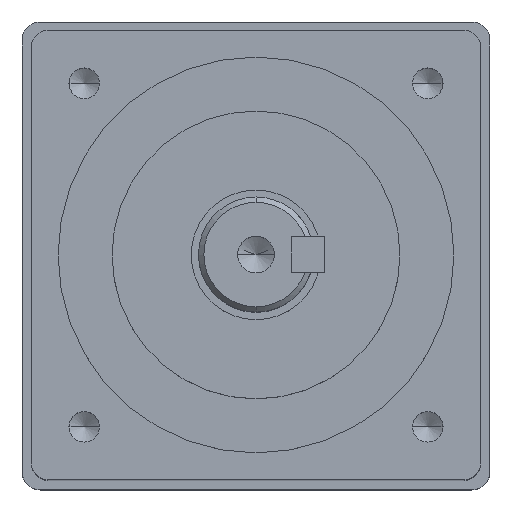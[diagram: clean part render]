
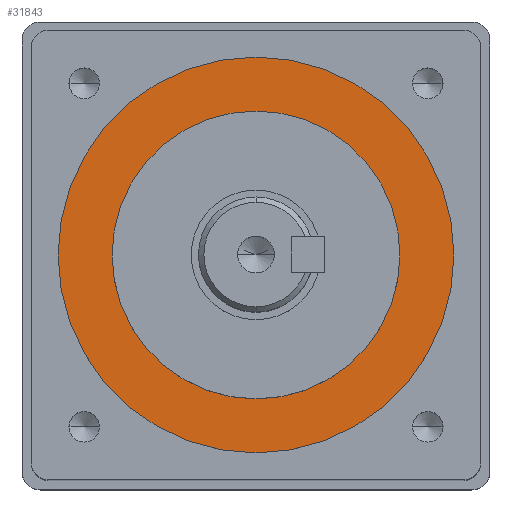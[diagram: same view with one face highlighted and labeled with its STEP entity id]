
A CAD part, top view. The second image highlights one B-rep face of the part: STEP entity #31843.
In plain terms, the highlighted planar face has unit normal (0, 0, 1).
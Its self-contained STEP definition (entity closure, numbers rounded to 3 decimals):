
#1376 = EDGE_CURVE ( 'NONE', #22476, #1460, #31026, .T. ) ;
#1460 = VERTEX_POINT ( 'NONE', #32520 ) ;
#1701 = CARTESIAN_POINT ( 'NONE',  ( 40., 0., 5. ) ) ;
#3507 = CARTESIAN_POINT ( 'NONE',  ( 0., 0., 5. ) ) ;
#4685 = VERTEX_POINT ( 'NONE', #11368 ) ;
#5006 = DIRECTION ( 'NONE',  ( -1., 0., 0. ) ) ;
#5077 = DIRECTION ( 'NONE',  ( 0., 0., -1. ) ) ;
#6755 = AXIS2_PLACEMENT_3D ( 'NONE', #6983, #24615, #9500 ) ;
#6983 = CARTESIAN_POINT ( 'NONE',  ( 0., 0., 5. ) ) ;
#8078 = CIRCLE ( 'NONE', #11906, 40. ) ;
#9406 = AXIS2_PLACEMENT_3D ( 'NONE', #29689, #14819, #32164 ) ;
#9500 = DIRECTION ( 'NONE',  ( -1., 0., 0. ) ) ;
#11368 = CARTESIAN_POINT ( 'NONE',  ( -40., 0., 5. ) ) ;
#11686 = PLANE ( 'NONE',  #14788 ) ;
#11861 = DIRECTION ( 'NONE',  ( 0., 0., -1. ) ) ;
#11906 = AXIS2_PLACEMENT_3D ( 'NONE', #26893, #11861, #29351 ) ;
#12707 = EDGE_CURVE ( 'NONE', #4685, #29924, #13374, .T. ) ;
#12982 = AXIS2_PLACEMENT_3D ( 'NONE', #3507, #5077, #5006 ) ;
#13130 = CIRCLE ( 'NONE', #9406, 55. ) ;
#13374 = CIRCLE ( 'NONE', #6755, 40. ) ;
#14295 = DIRECTION ( 'NONE',  ( 0., 0., 1. ) ) ;
#14788 = AXIS2_PLACEMENT_3D ( 'NONE', #31551, #14295, #31655 ) ;
#14819 = DIRECTION ( 'NONE',  ( 0., 0., -1. ) ) ;
#15503 = ORIENTED_EDGE ( 'NONE', *, *, #22045, .T. ) ;
#15877 = FACE_OUTER_BOUND ( 'NONE', #20837, .T. ) ;
#16058 = FACE_BOUND ( 'NONE', #26799, .T. ) ;
#17002 = ORIENTED_EDGE ( 'NONE', *, *, #28145, .F. ) ;
#18805 = ORIENTED_EDGE ( 'NONE', *, *, #12707, .T. ) ;
#20837 = EDGE_LOOP ( 'NONE', ( #29533, #17002 ) ) ;
#22045 = EDGE_CURVE ( 'NONE', #29924, #4685, #8078, .T. ) ;
#22476 = VERTEX_POINT ( 'NONE', #24247 ) ;
#24247 = CARTESIAN_POINT ( 'NONE',  ( -55., 0., 5. ) ) ;
#24615 = DIRECTION ( 'NONE',  ( 0., 0., -1. ) ) ;
#26799 = EDGE_LOOP ( 'NONE', ( #18805, #15503 ) ) ;
#26893 = CARTESIAN_POINT ( 'NONE',  ( 0., 0., 5. ) ) ;
#28145 = EDGE_CURVE ( 'NONE', #1460, #22476, #13130, .T. ) ;
#29351 = DIRECTION ( 'NONE',  ( -1., 0., 0. ) ) ;
#29533 = ORIENTED_EDGE ( 'NONE', *, *, #1376, .F. ) ;
#29689 = CARTESIAN_POINT ( 'NONE',  ( 0., 0., 5. ) ) ;
#29924 = VERTEX_POINT ( 'NONE', #1701 ) ;
#31026 = CIRCLE ( 'NONE', #12982, 55. ) ;
#31551 = CARTESIAN_POINT ( 'NONE',  ( 0., 0., 5. ) ) ;
#31655 = DIRECTION ( 'NONE',  ( 1., 0., 0. ) ) ;
#31843 = ADVANCED_FACE ( 'NONE', ( #16058, #15877 ), #11686, .T. ) ;
#32164 = DIRECTION ( 'NONE',  ( -1., 0., 0. ) ) ;
#32520 = CARTESIAN_POINT ( 'NONE',  ( 55., 0., 5. ) ) ;
